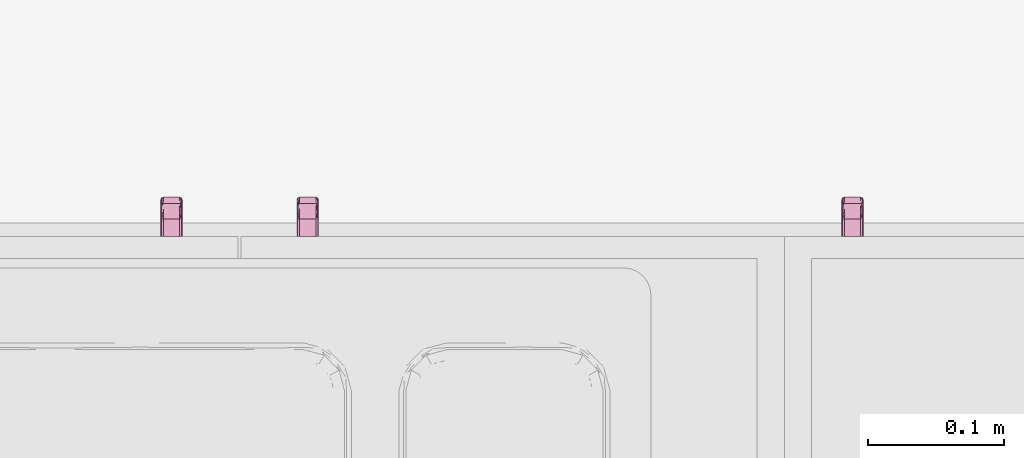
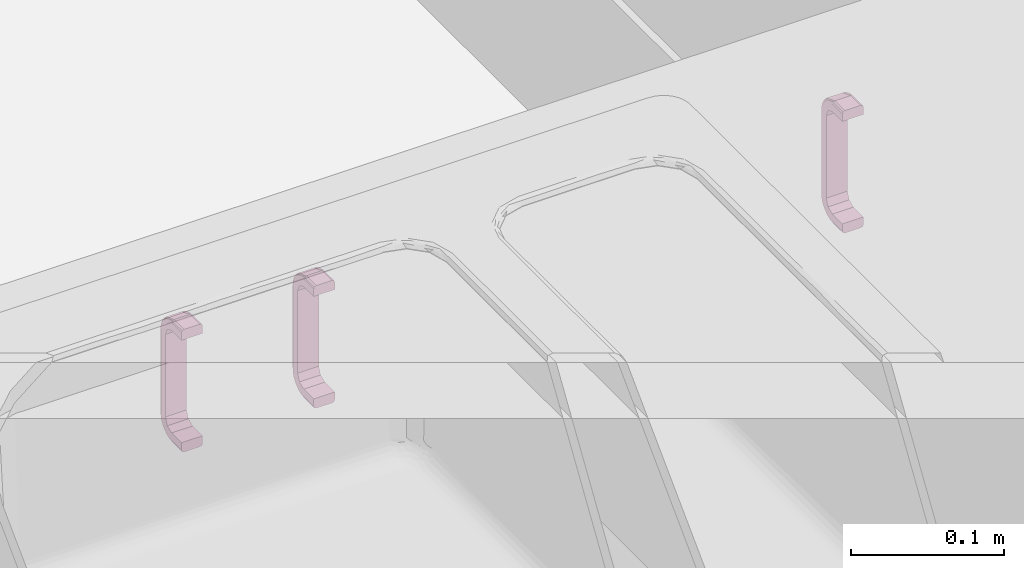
# One storey, part 45 of 65: 3 furnishings.
"""IFC2X3 building model written with IfcOpenShell, lengths in millimetres."""

from ifc_helpers import new_model, entity, si_unit, converted_unit, direction, frame, origin, place, context, subcontext, project, spatial, faceted_brep, source, transform, mapped, material, type_object, type_shapes, element, save


model = new_model("IFC2X3")

# Units and contexts
model_context = context("Model", 3, precision=0.01, world=origin(), true_north=direction((0.0, 1.0)))
body_context = subcontext(model_context, "Body", "Model", "MODEL_VIEW")
ifc_project = project(units=[si_unit("LENGTHUNIT", "METRE", prefix="MILLI"), si_unit("AREAUNIT", "SQUARE_METRE"), si_unit("VOLUMEUNIT", "CUBIC_METRE"), converted_unit("PLANEANGLEUNIT", "DEGREE", entity("IfcPlaneAngleMeasure", 0.017453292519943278), si_unit("PLANEANGLEUNIT", "RADIAN"), dimensions=[0, 0, 0, 0, 0, 0, 0])], contexts=[model_context])

# Site, building, storey, space
site_placement = place(None, origin())
site = spatial("IfcSite", under=ifc_project, at=site_placement, Name="Default", CompositionType="ELEMENT")
building_placement = place(site_placement, origin())
building = spatial("IfcBuilding", under=site, at=building_placement, CompositionType="ELEMENT")
storey_placement = place(building_placement, origin())
storey = spatial("IfcBuildingStorey", under=building, at=storey_placement, Name="Et. 1", CompositionType="ELEMENT", Elevation=0.0)
space_placement = place(storey_placement, origin())
space = spatial("IfcSpace", under=storey, at=space_placement, Name="101", CompositionType="ELEMENT", InteriorOrExteriorSpace="INTERNAL")

# Furnishings
ifc_material = material(Name="Focus - Kjøkken - Håndtak")
furniture_type = type_object("IfcFurnitureType", Name="Focus - Håndtak Skap:Håndtak skap", AssemblyPlace="NOTDEFINED", material=ifc_material)
shared_shape = source(origin(), body_context, "Body", "Brep", [
    faceted_brep([(-6.0, 0.0, 4.021099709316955), (6.0, 0.0, 4.021099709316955), (7.414213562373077, 0.0, 3.435313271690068), (8.0, 0.0, 2.021099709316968), (8.0, 0.0, -4.0210997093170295), (-8.0, 0.0, -4.0210997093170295), (-8.0, 0.0, 2.021099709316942), (-7.414213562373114, 0.0, 3.435313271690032), (-8.0, 0.0, -92.021099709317), (-8.0, 0.0, -85.97890029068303), (8.0, 0.0, -85.97890029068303), (8.0, 0.0, -92.02109970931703), (7.414213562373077, 0.0, -93.43531327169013), (6.0, 0.0, -94.02109970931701), (-6.0, 0.0, -94.02109970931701), (-7.414213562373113, 0.0, -93.43531327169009), (6.0, -13.0, 4.021099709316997), (7.414213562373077, -13.0, 3.4353132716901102), (7.707106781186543, -13.0, 2.728206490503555), (8.0, -13.0, 2.0210997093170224), (8.0, -16.60126528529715, 0.5294067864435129), (8.0, -19.75783998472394, -0.7780892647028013), (8.0, -22.914414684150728, -2.0855853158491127), (8.0, -23.941085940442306, -4.564188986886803), (8.0, -24.967757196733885, -7.042792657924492), (8.0, -25.994428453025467, -9.52139632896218), (8.0, -27.021099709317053, -12.0), (8.0, -27.021099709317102, -24.345039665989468), (8.0, -27.02109970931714, -36.69008005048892), (8.0, -27.021099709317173, -47.017560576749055), (8.0, -27.02109970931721, -57.34504038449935), (8.0, -27.021099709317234, -65.65496033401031), (8.0, -27.021099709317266, -78.0), (8.0, -25.52940678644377, -81.60126528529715), (8.0, -24.221910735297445, -84.75783998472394), (8.0, -22.914414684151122, -87.91441468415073), (8.0, -20.435811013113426, -88.9410859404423), (8.0, -17.95720734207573, -89.96775719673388), (8.0, -15.478603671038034, -90.99442845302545), (8.0, -13.0, -92.02109970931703), (8.0, -13.0, -85.97890029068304), (8.0, -18.64193450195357, -83.64193450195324), (8.0, -20.978900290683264, -78.0), (8.0, -20.978900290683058, -12.0), (8.0, -18.641934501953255, -6.358065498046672), (8.0, -13.0, -4.021099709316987), (-8.0, -13.0, -4.021099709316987), (-8.0, -13.0, -92.02109970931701), (-8.0, -16.6012653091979, -90.52940677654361), (-8.0, -19.7578399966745, -89.22191073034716), (-8.0, -22.914414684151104, -87.91441468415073), (-8.0, -23.941085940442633, -85.435811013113), (-8.0, -24.967757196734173, -82.9572073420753), (-8.0, -25.99442845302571, -80.47860367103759), (-8.0, -27.021099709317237, -78.0), (-8.0, -27.0210997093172, -65.65496055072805), (-8.0, -27.021099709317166, -55.327480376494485), (-8.0, -27.02109970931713, -45.00000020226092), (-8.0, -27.021099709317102, -34.67252002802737), (-8.0, -27.021099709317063, -24.34503985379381), (-8.0, -27.02109970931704, -12.0), (-8.0, -25.52940677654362, -8.398734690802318), (-8.0, -24.221910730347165, -5.242160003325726), (-8.0, -22.914414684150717, -2.0855853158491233), (-8.0, -20.435811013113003, -1.0589140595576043), (-8.0, -17.9572073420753, -0.032242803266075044), (-8.0, -15.478603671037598, 0.9944284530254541), (-8.0, -13.0, 2.0210997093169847), (-8.0, -18.641934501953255, -6.358065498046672), (-8.0, -20.97890029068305, -12.0), (-8.0, -20.978900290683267, -78.0), (-8.0, -18.64193450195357, -83.64193450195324), (-8.0, -13.0, -85.97890029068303), (-7.414213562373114, -13.0, 3.4353132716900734), (-6.523051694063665, -13.0, 3.8044446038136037), (-6.0, -13.0, 4.021099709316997), (7.77682804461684, -22.641402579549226, -0.588486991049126), (7.761199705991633, -19.755916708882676, 1.3575143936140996), (7.832026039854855, -25.954055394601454, -4.794062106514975), (6.0, -24.3286282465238, -0.6713717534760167), (6.7653668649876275, -25.002953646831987, -1.6197407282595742), (7.138822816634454, -22.341444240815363, 0.5752165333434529), (6.0, -20.2025305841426, 1.0377138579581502), (7.148530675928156, -17.923500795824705, 2.864246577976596), (7.108929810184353, -27.65191997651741, -6.400304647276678), (6.0, -26.037713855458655, -4.797469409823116), (6.0, -26.674863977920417, -6.335685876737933), (6.0, -27.52940678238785, -8.398734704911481), (6.0, -25.18317105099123, -2.734420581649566), (7.807346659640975, -27.454202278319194, -8.476170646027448), (7.7836039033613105, -16.529274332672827, 2.502698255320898), (6.0, -16.60126529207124, 2.529406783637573), (7.414213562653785, -25.40873190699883, -2.82000717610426), (6.873580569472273, -26.597477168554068, -3.91370423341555), (6.0, -21.496471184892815, 0.5017461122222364), (6.523051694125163, -28.804444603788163, -12.0), (6.968390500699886, -28.53877057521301, -9.3033965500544), (6.0, -27.847981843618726, -9.167842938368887), (6.0, -29.021099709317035, -12.0), (7.414213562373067, -28.43531327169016, -12.0), (6.0, -18.664314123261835, 1.67486397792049), (6.0, -25.501746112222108, -3.5035288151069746), (-6.0, -16.601265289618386, 2.529406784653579), (-6.0, -15.832157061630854, 2.847981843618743), (-7.78360391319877, -27.50269824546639, -8.470725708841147), (-7.761199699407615, -26.357514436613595, -5.244083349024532), (-7.10892981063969, -18.599695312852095, 2.651919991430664), (-6.0, -20.2025305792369, 1.0377138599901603), (-6.0, -18.664314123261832, 1.67486397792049), (-7.730939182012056, -16.04875454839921, 2.7104148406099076), (-7.744591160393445, -19.340507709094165, 1.5930015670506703), (-6.76536686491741, -21.540484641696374, 1.3746327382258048), (-6.0, -22.265579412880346, 0.183171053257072), (-6.0, -21.496471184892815, 0.5017461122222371), (-7.148530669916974, -27.864246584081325, -7.076499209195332), (-7.138822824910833, -25.57521654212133, -2.6585557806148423), (-6.0, -26.037713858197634, -4.7974694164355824), (-7.414213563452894, -22.17999279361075, 0.4087319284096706), (-7.776828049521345, -24.411513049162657, -2.3585974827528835), (-6.853012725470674, -23.855367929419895, -0.47819170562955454), (-7.414213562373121, -28.43531327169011, -12.0), (-6.0, -27.529406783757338, -8.398734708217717), (-6.0, -25.501746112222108, -3.5035288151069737), (-6.0, -24.3286282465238, -0.6713717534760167), (-7.7071067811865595, -27.728206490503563, -12.0), (-6.96839049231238, -15.696603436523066, 3.5387705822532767), (-6.0, -29.021099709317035, -12.0), (-6.0, -26.67486397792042, -6.33568587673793), (7.414213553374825, -28.435313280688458, -29.508780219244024), (6.0, -29.021099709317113, -34.67252039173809), (7.450985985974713, -28.39755881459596, -41.853819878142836), (7.41421354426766, -28.435313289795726, -61.49999992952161), (6.0, -29.02109970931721, -65.65496032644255), (7.4142135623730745, -28.435313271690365, -78.0), (6.0, -29.02109970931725, -78.0), (6.0, -29.02109970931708, -24.345039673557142), (7.707106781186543, -27.728206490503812, -78.0), (6.0, -29.02109970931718, -55.3274796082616), (6.0, -29.021099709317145, -45.0), (-7.414213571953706, -28.435313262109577, -29.50878047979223), (-6.0, -29.02109970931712, -36.69007988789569), (-6.0, -29.021099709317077, -24.345040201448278), (-7.414213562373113, -28.43531327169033, -78.0), (-7.414213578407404, -28.435313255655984, -61.499999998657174), (-6.0, -29.021099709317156, -47.017559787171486), (-7.376459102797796, -28.472085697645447, -41.85382016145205), (-6.0, -29.021099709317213, -65.6549603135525), (-6.523051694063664, -28.80444460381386, -78.0), (-6.0, -29.02109970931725, -78.0), (-6.0, -29.021099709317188, -57.34504020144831), (7.776828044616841, -24.411513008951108, -87.64140257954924), (7.7611997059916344, -26.357514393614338, -84.7559167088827), (7.8320260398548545, -20.20593789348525, -90.95405539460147), (6.0, -24.328628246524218, -89.32862824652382), (6.0, -22.265579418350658, -90.18317105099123), (6.7653668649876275, -23.38025927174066, -90.002953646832), (6.0, -26.037713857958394, -85.2025305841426), (7.138822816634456, -25.575216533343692, -87.34144424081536), (7.148530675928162, -27.864246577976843, -82.92350079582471), (7.108929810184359, -18.599695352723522, -92.65191997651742), (6.0, -20.202530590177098, -91.03771385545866), (6.0, -18.66431412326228, -91.67486397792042), (6.0, -16.601265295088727, -92.52940678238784), (6.873580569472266, -21.086295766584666, -91.5974771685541), (6.0, -21.49647118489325, -90.50174611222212), (7.8073466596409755, -16.5238293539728, -92.45420227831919), (7.78360390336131, -27.50269825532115, -81.52927433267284), (6.0, -27.529406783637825, -81.60126529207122), (7.414213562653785, -22.179992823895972, -90.40873190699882), (6.0, -25.50174611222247, -86.49647118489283), (6.523051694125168, -13.0, -93.80444460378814), (6.968390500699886, -15.696603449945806, -93.53877057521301), (6.0, -15.832157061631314, -92.84798184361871), (6.0, -13.0, -94.02109970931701), (7.414213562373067, -13.0, -93.43531327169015), (6.0, -26.674863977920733, -83.66431412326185), (-6.0, -27.529406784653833, -81.60126528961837), (-6.0, -27.84798184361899, -80.83215706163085), (-7.7836039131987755, -16.529274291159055, -92.50269824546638), (-7.7611996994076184, -19.755916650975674, -91.3575144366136), (-7.108929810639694, -27.651919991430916, -83.59969531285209), (-6.0, -26.03771385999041, -85.20253057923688), (-6.0, -26.67486397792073, -83.66431412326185), (-7.730939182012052, -27.71041484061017, -81.04875454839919), (-7.74459116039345, -26.593001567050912, -84.34050770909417), (-6.76536686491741, -26.374632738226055, -86.54048464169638), (-6.0, -25.18317105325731, -87.26557941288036), (-6.0, -25.50174611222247, -86.49647118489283), (-7.148530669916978, -17.923500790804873, -92.86424658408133), (-7.138822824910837, -22.341444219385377, -90.57521654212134), (-6.0, -20.20253058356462, -91.03771385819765), (-7.414213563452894, -25.40873192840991, -87.17999279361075), (-7.776828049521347, -22.64140251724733, -89.41151304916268), (-6.853012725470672, -24.52180829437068, -88.85536792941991), (-7.41421356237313, -13.0, -93.43531327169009), (-6.0, -16.601265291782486, -92.52940678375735), (-6.0, -21.49647118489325, -90.50174611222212), (-6.0, -24.328628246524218, -89.32862824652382), (-7.707106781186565, -13.0, -92.72820649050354), (-6.96839049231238, -28.538770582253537, -80.69660343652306), (-6.0, -13.0, -94.02109970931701), (-6.0, -18.66431412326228, -91.67486397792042)], [[[0, 1, 2, 3, 4, 5, 6, 7]], [[8, 9, 10, 11, 12, 13, 14, 15]], [[16, 17, 2, 1]], [[2, 17, 18, 19, 3]], [[4, 3, 19, 20, 21, 22, 23, 24, 25, 26, 27, 28, 29, 30, 31, 32, 33, 34, 35, 36, 37, 38, 39, 11, 10, 40, 41, 42, 43, 44, 45]], [[5, 4, 45, 46]], [[9, 8, 47, 48, 49, 50, 51, 52, 53, 54, 55, 56, 57, 58, 59, 60, 61, 62, 63, 64, 65, 66, 67, 6, 5, 46, 68, 69, 70, 71, 72]], [[67, 73, 7, 6]], [[7, 73, 74, 75, 0]], [[1, 0, 75, 16]], [[76, 21, 77]], [[78, 24, 23]], [[79, 80, 81]], [[82, 81, 83]], [[84, 85, 86, 87]], [[80, 79, 88]], [[89, 24, 78]], [[90, 77, 20]], [[17, 91, 83]], [[92, 93, 84]], [[81, 82, 94, 79]], [[87, 95, 96]], [[77, 83, 81]], [[23, 76, 78]], [[93, 92, 80]], [[22, 76, 23]], [[90, 17, 83]], [[19, 18, 17, 90]], [[95, 87, 97, 98]], [[99, 26, 89]], [[76, 77, 81]], [[20, 19, 90]], [[92, 76, 81]], [[21, 76, 22]], [[21, 20, 77]], [[83, 77, 90]], [[91, 17, 16]], [[83, 91, 100, 82]], [[93, 88, 101, 85]], [[81, 80, 92]], [[88, 93, 80]], [[85, 84, 93]], [[76, 92, 78]], [[92, 84, 78]], [[89, 78, 84]], [[84, 96, 89]], [[89, 26, 25, 24]], [[96, 95, 99]], [[89, 96, 99]], [[87, 96, 84]], [[44, 68, 46, 45]], [[43, 69, 68, 44]], [[74, 102, 103, 75]], [[104, 105, 61]], [[106, 107, 108, 102]], [[109, 110, 106]], [[111, 112, 113, 107]], [[105, 114, 115]], [[115, 114, 116]], [[110, 64, 117]], [[118, 62, 105]], [[106, 110, 117]], [[117, 119, 111]], [[120, 121, 114]], [[115, 116, 122, 123]], [[112, 111, 119]], [[119, 117, 118]], [[63, 118, 64]], [[104, 120, 114]], [[60, 124, 120, 104]], [[109, 125, 73]], [[125, 109, 106]], [[118, 105, 115]], [[61, 60, 104]], [[118, 115, 119]], [[62, 118, 63]], [[62, 61, 105]], [[114, 105, 104]], [[121, 120, 126]], [[114, 121, 127, 116]], [[107, 106, 111]], [[106, 117, 111]], [[115, 123, 119]], [[112, 119, 123]], [[64, 118, 117]], [[125, 74, 73]], [[102, 74, 125]], [[102, 125, 106]], [[73, 67, 109]], [[66, 65, 64, 110]], [[110, 109, 66]], [[109, 67, 66]], [[122, 116, 127, 121, 126, 98, 97, 87, 86, 85, 101, 88, 79, 123]], [[79, 94, 82, 100, 91, 16, 75, 103, 102, 108, 107, 113, 112, 123]], [[128, 28, 27, 99]], [[129, 130, 128]], [[29, 130, 131]], [[132, 133, 131]], [[132, 134, 133]], [[135, 99, 95, 98]], [[128, 99, 135, 129]], [[30, 29, 131, 31]], [[31, 133, 136, 32]], [[27, 26, 99]], [[31, 131, 133]], [[130, 137, 131]], [[28, 130, 29]], [[129, 138, 137, 130]], [[28, 128, 130]], [[137, 132, 131]], [[69, 43, 42, 70]], [[139, 140, 141, 120]], [[55, 142, 143]], [[144, 145, 143]], [[146, 142, 147, 148]], [[141, 126, 120]], [[55, 54, 142]], [[59, 120, 124, 60]], [[139, 120, 59, 58]], [[146, 149, 144, 143]], [[58, 145, 139]], [[146, 143, 142]], [[145, 56, 143]], [[140, 145, 144]], [[58, 57, 56, 145]], [[140, 139, 145]], [[56, 55, 143]], [[98, 126, 141, 140, 144, 149, 146, 148, 134, 132, 137, 138, 129, 135]], [[150, 34, 151]], [[152, 37, 36]], [[153, 154, 155]], [[156, 157, 158]], [[159, 160, 161, 162]], [[163, 154, 164, 160]], [[165, 37, 152]], [[166, 151, 33]], [[133, 167, 158]], [[168, 163, 159]], [[157, 156, 169, 153]], [[162, 170, 171]], [[151, 158, 157]], [[36, 150, 152]], [[163, 168, 155]], [[35, 150, 36]], [[166, 133, 158]], [[32, 136, 133, 166]], [[170, 162, 172, 173]], [[174, 39, 165]], [[150, 151, 157]], [[33, 32, 166]], [[168, 150, 157]], [[34, 150, 35]], [[34, 33, 151]], [[158, 151, 166]], [[167, 133, 134]], [[158, 167, 175, 156]], [[168, 157, 155]], [[157, 153, 155]], [[154, 163, 155]], [[160, 159, 163]], [[150, 168, 152]], [[168, 159, 152]], [[165, 152, 159]], [[159, 171, 165]], [[165, 39, 38, 37]], [[171, 170, 174]], [[165, 171, 174]], [[162, 171, 159]], [[41, 71, 70, 42]], [[40, 72, 71, 41]], [[147, 176, 177, 148]], [[178, 179, 48]], [[180, 181, 182, 176]], [[183, 184, 180]], [[185, 186, 187, 181]], [[179, 188, 189]], [[189, 188, 190]], [[184, 51, 191]], [[192, 49, 179]], [[180, 184, 191]], [[191, 193, 185]], [[194, 195, 188]], [[189, 190, 196, 197]], [[186, 185, 193]], [[193, 191, 192]], [[50, 192, 51]], [[178, 194, 188]], [[47, 198, 194, 178]], [[183, 199, 142]], [[199, 183, 180]], [[192, 179, 189]], [[48, 47, 178]], [[192, 189, 193]], [[49, 192, 50]], [[49, 48, 179]], [[188, 179, 178]], [[195, 194, 200]], [[188, 195, 201, 190]], [[181, 180, 185]], [[180, 191, 185]], [[189, 197, 193]], [[186, 193, 197]], [[51, 192, 191]], [[199, 147, 142]], [[176, 147, 199]], [[176, 199, 180]], [[142, 54, 183]], [[53, 52, 51, 184]], [[184, 183, 53]], [[183, 54, 53]], [[196, 190, 201, 195, 200, 173, 172, 162, 161, 160, 164, 154, 153, 197]], [[153, 169, 156, 175, 167, 134, 148, 177, 176, 182, 181, 187, 186, 197]], [[13, 12, 174, 170, 173]], [[174, 12, 11, 39]], [[72, 40, 10, 9]], [[8, 15, 194, 198, 47]], [[194, 15, 14, 200]], [[173, 200, 14, 13]]]),
])
type_shapes(furniture_type, [shared_shape])
for number, where, z_axis, x_axis, name in (
    (1, (14582.009586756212, 12344.180957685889, 820.0), (0.0, 0.0, 1.0), (-1.0, 0.0, 0.0), "Focus - Håndtak Skap:Håndtak skap"),
    (2, (14682.00958675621, 12344.180957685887, 820.0), (0.0, 0.0, 1.0), (-1.0, 0.0, 0.0), "Focus - Håndtak Skap:Håndtak skap"),
    (3, (15082.009586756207, 12344.18095768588, 820.0), (0.0, 0.0, 1.0), (-1.0, 0.0, 0.0), "Focus - Håndtak Skap:Håndtak skap"),
):
    element("IfcFurnishingElement", number, at=place(space_placement, frame(where, z_axis=z_axis, x_axis=x_axis)), inside=space, type_object=furniture_type, material=ifc_material, Name=name, context=body_context, shape_type="MappedRepresentation", body=[
        mapped(shared_shape, transform((0.0, 0.0, 0.0), scale=1.0)),
    ])

save(model, "model.ifc")
